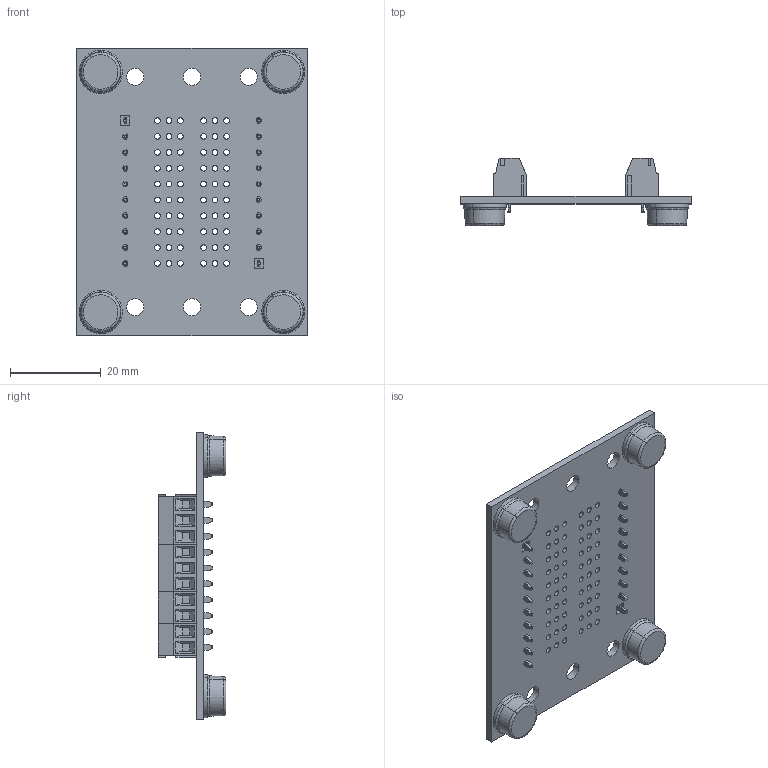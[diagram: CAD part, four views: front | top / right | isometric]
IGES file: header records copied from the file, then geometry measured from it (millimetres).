
Start section: SolidWorks IGES file using analytic representation for surfaces
Global section: file name: C:\Users\Jonny\Documents\Winford Engineering Jobs\TTA Boards\TTA3510\tta3510-ft-rev_a.igs; native system: SolidWorks 2017; preprocessor: SolidWorks 2017; author: Jonny; date: 170614.225120; units: inch
Bounding box: 50.8 x 14.91 x 63.5 mm (x, y, z)
Volume: 9704.3 mm3; surface area: 12835.5 mm2
Topology: 13 solids, 13 shells, 2782 faces, 8436 edges, 5924 vertices
Faces by surface type: plane 1745, revolution 670, bspline 367
